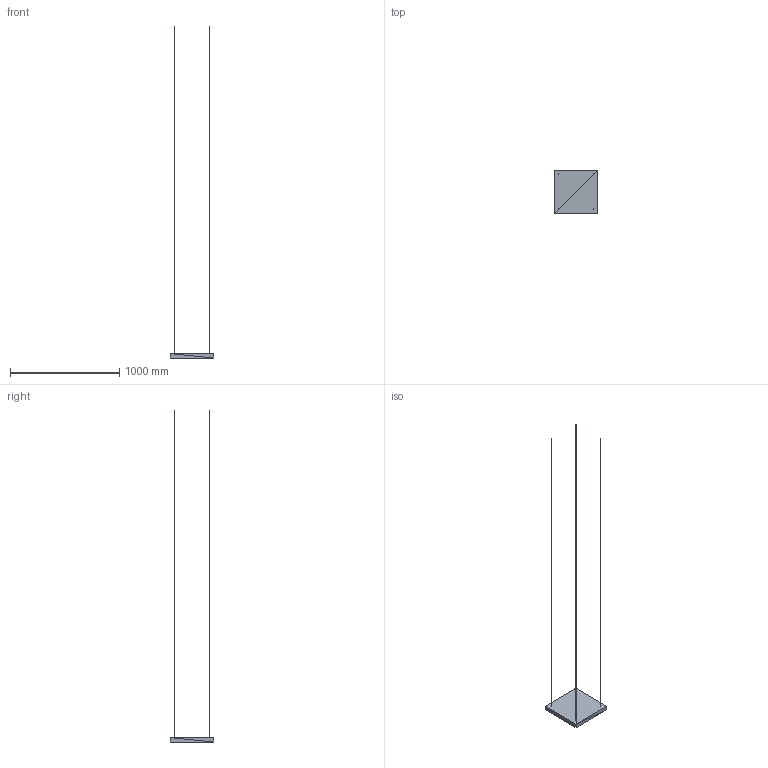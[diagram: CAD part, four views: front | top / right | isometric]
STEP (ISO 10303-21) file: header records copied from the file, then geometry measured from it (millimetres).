
FILE_DESCRIPTION(('ISINAC STEP AP214'),'2;1');
FILE_NAME('ISINAC_C.400_40mm_COLGADO','2026-05-03T10:49:19',('ISINAC'),('www.isinac.com'),'ISINAC BIM Generator 1.0','','');
FILE_SCHEMA(('AUTOMOTIVE_DESIGN'));
Length unit declared in the file: millimetre
Products named in the file (1): ISINAC_C.400_40mm_COLGADO
Bounding box: 400 x 400 x 3040 mm (x, y, z)
Surface area: 492046 mm2 (no closed solid volume)
Topology: 0 solids, 92 shells, 92 faces, 276 edges, 276 vertices
Faces by surface type: plane 92
Entity records: 1025 total; most frequent: CARTESIAN_POINT 368, DIRECTION 184, POLY_LOOP 92, FACE_OUTER_BOUND 92, AXIS2_PLACEMENT_3D 92, PLANE 92, FACE_SURFACE 92, CLOSED_SHELL 1
